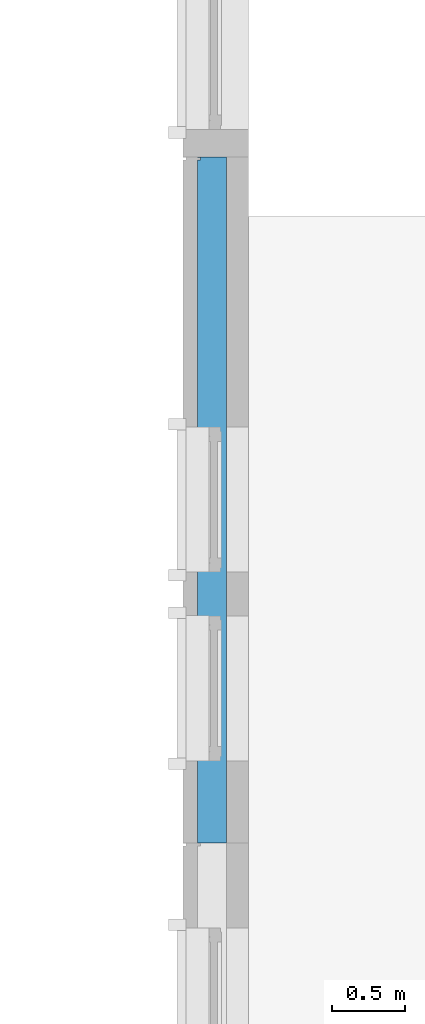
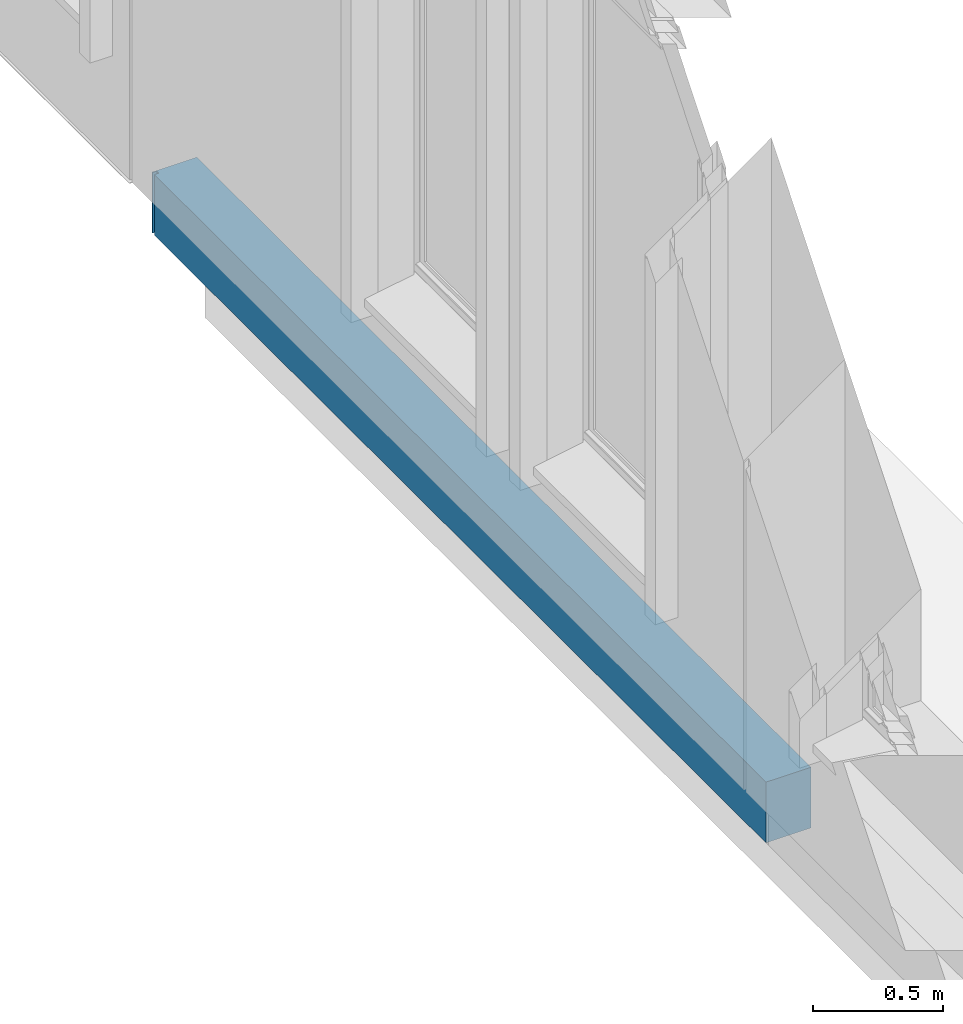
# One storey, part 7 of 33: 1 wall, 1 opening.
"""IFC2X3 building model written with IfcOpenShell, lengths in millimetres."""

from ifc_helpers import new_model, entity, si_unit, converted_unit, derived_unit, direction, frame, frame_2d, origin, place, context, subcontext, project, spatial, rectangle, extrude, material, layer, layer_set, layer_usage, type_object, element, save


model = new_model("IFC2X3")

# Units and contexts
model_context = context("Model", 3, precision=0.01, world=origin(), true_north=direction((6.12303176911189e-17, 1.0)))
body_context = subcontext(model_context, "Body", "Model", "MODEL_VIEW")
ifc_project = project(units=[si_unit("LENGTHUNIT", "METRE", prefix="MILLI"), si_unit("AREAUNIT", "SQUARE_METRE"), si_unit("VOLUMEUNIT", "CUBIC_METRE"), converted_unit("PLANEANGLEUNIT", "DEGREE", entity("IfcRatioMeasure", 0.0174532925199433), si_unit("PLANEANGLEUNIT", "RADIAN"), dimensions=[0, 0, 0, 0, 0, 0, 0]), si_unit("MASSUNIT", "GRAM", prefix="KILO"), derived_unit("MASSDENSITYUNIT", [(si_unit("MASSUNIT", "GRAM", prefix="KILO"), 1), (si_unit("LENGTHUNIT", "METRE"), -3)]), si_unit("TIMEUNIT", "SECOND"), si_unit("FREQUENCYUNIT", "HERTZ"), si_unit("THERMODYNAMICTEMPERATUREUNIT", "DEGREE_CELSIUS"), derived_unit("THERMALTRANSMITTANCEUNIT", [(si_unit("MASSUNIT", "GRAM", prefix="KILO"), 1), (si_unit("THERMODYNAMICTEMPERATUREUNIT", "KELVIN"), -1), (si_unit("TIMEUNIT", "SECOND"), -3)]), derived_unit("VOLUMETRICFLOWRATEUNIT", [(si_unit("LENGTHUNIT", "METRE"), 3), (si_unit("TIMEUNIT", "SECOND"), -1)]), si_unit("ELECTRICCURRENTUNIT", "AMPERE"), si_unit("ELECTRICVOLTAGEUNIT", "VOLT"), si_unit("POWERUNIT", "WATT"), si_unit("FORCEUNIT", "NEWTON", prefix="KILO"), si_unit("ILLUMINANCEUNIT", "LUX"), si_unit("LUMINOUSFLUXUNIT", "LUMEN"), si_unit("LUMINOUSINTENSITYUNIT", "CANDELA"), derived_unit("USERDEFINED", [(si_unit("MASSUNIT", "GRAM", prefix="KILO"), -1), (si_unit("LENGTHUNIT", "METRE"), -2), (si_unit("TIMEUNIT", "SECOND"), 3), (si_unit("LUMINOUSFLUXUNIT", "LUMEN"), 1)]), derived_unit("LINEARVELOCITYUNIT", [(si_unit("LENGTHUNIT", "METRE"), 1), (si_unit("TIMEUNIT", "SECOND"), -1)]), si_unit("PRESSUREUNIT", "PASCAL"), derived_unit("USERDEFINED", [(si_unit("LENGTHUNIT", "METRE"), -2), (si_unit("MASSUNIT", "GRAM", prefix="KILO"), 1), (si_unit("TIMEUNIT", "SECOND"), -2)])], contexts=[model_context])

# Site, building, storey
site_placement = place(None, origin())
site = spatial("IfcSite", under=ifc_project, at=site_placement, Name="Default", CompositionType="ELEMENT")
building_placement = place(site_placement, origin())
building = spatial("IfcBuilding", under=site, at=building_placement, CompositionType="ELEMENT")
storey_placement = place(building_placement, frame((0.0, 0.0, 4000.0)))
storey = spatial("IfcBuildingStorey", under=building, at=storey_placement, Name="2. KORRUS", CompositionType="ELEMENT", Elevation=4000.0)

# Wall, opening
ifc_material = material(Name="Soojusisolatsioon PIR tuletõkkekattega")
ifc_layer = layer(ifc_material, 200.0)
ifc_layer_set = layer_set([ifc_layer], Name="Basic Wall:vs_mineraalvill 200mm")
ifc_layer_usage = layer_usage(ifc_layer_set, "AXIS2", "POSITIVE", -100.0)
wall_type = type_object("IfcWallType", Name="Basic Wall:vs_mineraalvill 200mm", PredefinedType="STANDARD", material=ifc_layer_set)
wall_placement = place(storey_placement, frame((-250.0, 13010.0, -400.0), z_axis=(0.0, 0.0, 1.0), x_axis=(0.0, -1.0, 0.0)))
wall = element("IfcWallStandardCase", 1, at=wall_placement, inside=storey, type_object=wall_type, material=ifc_layer_usage, Name="Basic Wall:vs_mineraalvill 200mm", ObjectType="Basic Wall:vs_mineraalvill 200mm", context=body_context, shape_type="SweptSolid", body=[
    extrude(rectangle(XDim=4724.85920481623, YDim=200.0, at=frame_2d((2362.42960240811, 0.0), x_axis=(-1.0, 0.0))), origin(), (0.0, 0.0, 1.0), 285.0),
])
opening_placement = place(wall_placement, origin())
element("IfcOpeningElement", 2, at=opening_placement, cuts=wall, Name="Basic Wall:vs_mineraalvill 200mm", ObjectType="Recess", context=body_context, shape_type="SweptSolid", body=[
    extrude(rectangle(XDim=285.0, YDim=16.0000000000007, at=frame_2d((2.70006239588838e-13, 0.0), x_axis=(1.0, 0.0))), frame((12.0, -100.0, 142.5), z_axis=(0.0, 1.0, 0.0), x_axis=(0.0, 0.0, -1.0)), (0.0, 0.0, 1.0), 20.0),
    extrude(rectangle(XDim=4815.0, YDim=16.0000000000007, at=frame_2d((-2.27373675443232e-13, 0.0), x_axis=(1.0, 0.0))), frame((12.0, -200.0, 2692.5), z_axis=(0.0, 1.0, 0.0), x_axis=(0.0, 0.0, -1.0)), (0.0, 0.0, 1.0), 20.0),
])

save(model, "model.ifc")
